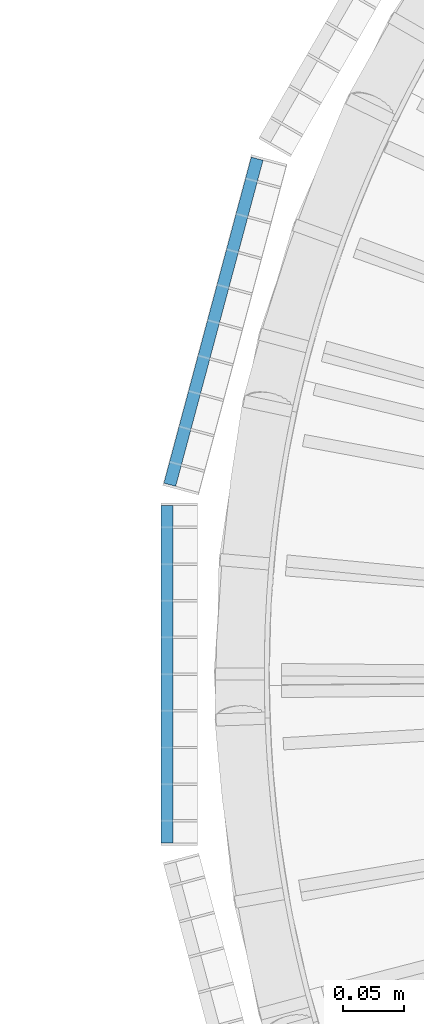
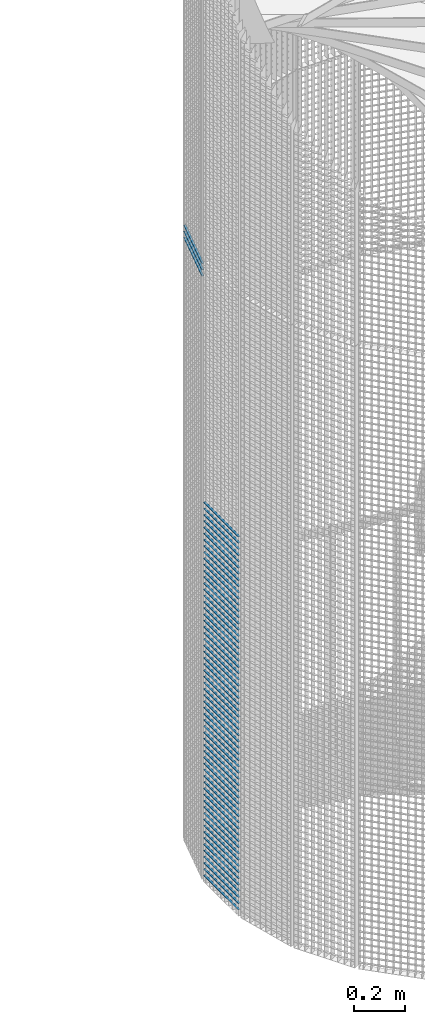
# One storey, part 220 of 1183: 64 beams, 2 elements without a shape of their own.
"""IFC2X3 building model written with IfcOpenShell, lengths in millimetres."""

from ifc_helpers import new_model, si_unit, frame, origin_with_axes, origin_2d_with_axis, place, context, subcontext, project, spatial, rectangle, extrude, material, type_object, element, aggregate, save


model = new_model("IFC2X3")

# Units and contexts
model_context = context("Model", 3, precision=1e-05, world=origin_with_axes())
body_context = subcontext(model_context, "Body", "Model", "MODEL_VIEW")
ifc_project = project(units=[si_unit("LENGTHUNIT", "METRE", prefix="MILLI"), si_unit("AREAUNIT", "SQUARE_METRE"), si_unit("VOLUMEUNIT", "CUBIC_METRE"), si_unit("MASSUNIT", "GRAM", prefix="KILO"), si_unit("TIMEUNIT", "SECOND"), si_unit("PLANEANGLEUNIT", "RADIAN"), si_unit("SOLIDANGLEUNIT", "STERADIAN"), si_unit("THERMODYNAMICTEMPERATUREUNIT", "DEGREE_CELSIUS"), si_unit("LUMINOUSINTENSITYUNIT", "LUMEN")], contexts=[model_context])

# Site, building, storey
site_placement = place(None, origin_with_axes())
site = spatial("IfcSite", under=ifc_project, at=site_placement, Name="Undefined", CompositionType="ELEMENT")
building_placement = place(site_placement, origin_with_axes())
building = spatial("IfcBuilding", under=site, at=building_placement, Name="Undefined", CompositionType="ELEMENT")
storey_placement = place(building_placement, origin_with_axes())
storey = spatial("IfcBuildingStorey", under=building, at=storey_placement, Name="Undefined", CompositionType="ELEMENT", Elevation=0.0)

# Assembly, beams
assembly_1_placement = place(storey_placement, origin_with_axes())
assembly_1 = element("IfcElementAssembly", 1, at=assembly_1_placement, inside=storey, Name="BORDURE", AssemblyPlace="NOTDEFINED", PredefinedType="NOTDEFINED")
ifc_material = material(Name="STEEL/S235JR")
beam_type = type_object("IfcBeamType", Name="PL2*10", PredefinedType="NOTDEFINED")
beam_1_placement = place(assembly_1_placement, frame((-1113.47999999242, 137.996003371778, 1830.0), z_axis=(-1.0, 0.0, 0.0), x_axis=(0.0, -1.0, 0.0)))
beam_1 = element("IfcBeam", 2, at=beam_1_placement, type_object=beam_type, material=ifc_material, Name="ENTRETOISE", context=body_context, shape_type="SweptSolid", body=[
    extrude(rectangle(XDim=2.0, YDim=10.0, at=origin_2d_with_axis()), frame((275.999999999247, 9.09494701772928e-13, 1.53210777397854e-14), z_axis=(-1.0, 0.0, 0.0), x_axis=(0.0, -1.0, 0.0)), (0.0, 0.0, 1.0), 276.0),
])
beam_2_placement = place(assembly_1_placement, frame((-1113.47999999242, 137.996003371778, 1800.0), z_axis=(-1.0, 0.0, 0.0), x_axis=(0.0, -1.0, 0.0)))
beam_2 = element("IfcBeam", 3, at=beam_2_placement, type_object=beam_type, material=ifc_material, Name="ENTRETOISE", context=body_context, shape_type="SweptSolid", body=[
    extrude(rectangle(XDim=2.0, YDim=10.0, at=origin_2d_with_axis()), frame((275.999999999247, 9.09494701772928e-13, 1.53210777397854e-14), z_axis=(-1.0, 0.0, 0.0), x_axis=(0.0, -1.0, 0.0)), (0.0, 0.0, 1.0), 276.0),
])
beam_3_placement = place(assembly_1_placement, frame((-1113.47999999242, 137.996003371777, 1770.0), z_axis=(-1.0, 0.0, 0.0), x_axis=(0.0, -1.0, 0.0)))
beam_3 = element("IfcBeam", 4, at=beam_3_placement, type_object=beam_type, material=ifc_material, Name="ENTRETOISE", context=body_context, shape_type="SweptSolid", body=[
    extrude(rectangle(XDim=2.0, YDim=10.0, at=origin_2d_with_axis()), frame((275.999999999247, 9.09494701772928e-13, 1.53210777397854e-14), z_axis=(-1.0, 0.0, 0.0), x_axis=(0.0, -1.0, 0.0)), (0.0, 0.0, 1.0), 276.0),
])
beam_4_placement = place(assembly_1_placement, frame((-1113.47999999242, 137.996003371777, 1740.0), z_axis=(-1.0, 0.0, 0.0), x_axis=(0.0, -1.0, 0.0)))
beam_4 = element("IfcBeam", 5, at=beam_4_placement, type_object=beam_type, material=ifc_material, Name="ENTRETOISE", context=body_context, shape_type="SweptSolid", body=[
    extrude(rectangle(XDim=2.0, YDim=10.0, at=origin_2d_with_axis()), frame((275.999999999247, 9.09494701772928e-13, 1.53210777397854e-14), z_axis=(-1.0, 0.0, 0.0), x_axis=(0.0, -1.0, 0.0)), (0.0, 0.0, 1.0), 276.0),
])
beam_5_placement = place(assembly_1_placement, frame((-1113.47999999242, 137.996003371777, 1710.0), z_axis=(-1.0, 0.0, 0.0), x_axis=(0.0, -1.0, 0.0)))
beam_5 = element("IfcBeam", 6, at=beam_5_placement, type_object=beam_type, material=ifc_material, Name="ENTRETOISE", context=body_context, shape_type="SweptSolid", body=[
    extrude(rectangle(XDim=2.0, YDim=10.0, at=origin_2d_with_axis()), frame((275.999999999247, 9.09494701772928e-13, 1.53210777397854e-14), z_axis=(-1.0, 0.0, 0.0), x_axis=(0.0, -1.0, 0.0)), (0.0, 0.0, 1.0), 276.0),
])
beam_6_placement = place(assembly_1_placement, frame((-1113.47999999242, 137.996003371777, 1680.0), z_axis=(-1.0, 0.0, 0.0), x_axis=(0.0, -1.0, 0.0)))
beam_6 = element("IfcBeam", 7, at=beam_6_placement, type_object=beam_type, material=ifc_material, Name="ENTRETOISE", context=body_context, shape_type="SweptSolid", body=[
    extrude(rectangle(XDim=2.0, YDim=10.0, at=origin_2d_with_axis()), frame((275.999999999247, 9.09494701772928e-13, 1.53210777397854e-14), z_axis=(-1.0, 0.0, 0.0), x_axis=(0.0, -1.0, 0.0)), (0.0, 0.0, 1.0), 276.0),
])
beam_7_placement = place(assembly_1_placement, frame((-1113.47999999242, 137.996003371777, 1650.0), z_axis=(-1.0, 0.0, 0.0), x_axis=(0.0, -1.0, 0.0)))
beam_7 = element("IfcBeam", 8, at=beam_7_placement, type_object=beam_type, material=ifc_material, Name="ENTRETOISE", context=body_context, shape_type="SweptSolid", body=[
    extrude(rectangle(XDim=2.0, YDim=10.0, at=origin_2d_with_axis()), frame((275.999999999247, 9.09494701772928e-13, 1.53210777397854e-14), z_axis=(-1.0, 0.0, 0.0), x_axis=(0.0, -1.0, 0.0)), (0.0, 0.0, 1.0), 276.0),
])
beam_8_placement = place(assembly_1_placement, frame((-1113.47999999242, 137.996003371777, 1620.0), z_axis=(-1.0, 0.0, 0.0), x_axis=(0.0, -1.0, 0.0)))
beam_8 = element("IfcBeam", 9, at=beam_8_placement, type_object=beam_type, material=ifc_material, Name="ENTRETOISE", context=body_context, shape_type="SweptSolid", body=[
    extrude(rectangle(XDim=2.0, YDim=10.0, at=origin_2d_with_axis()), frame((275.999999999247, 9.09494701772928e-13, 1.53210777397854e-14), z_axis=(-1.0, 0.0, 0.0), x_axis=(0.0, -1.0, 0.0)), (0.0, 0.0, 1.0), 276.0),
])
beam_9_placement = place(assembly_1_placement, frame((-1113.47999999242, 137.996003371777, 1590.0), z_axis=(-1.0, 0.0, 0.0), x_axis=(0.0, -1.0, 0.0)))
beam_9 = element("IfcBeam", 10, at=beam_9_placement, type_object=beam_type, material=ifc_material, Name="ENTRETOISE", context=body_context, shape_type="SweptSolid", body=[
    extrude(rectangle(XDim=2.0, YDim=10.0, at=origin_2d_with_axis()), frame((275.999999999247, 9.09494701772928e-13, 1.53210777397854e-14), z_axis=(-1.0, 0.0, 0.0), x_axis=(0.0, -1.0, 0.0)), (0.0, 0.0, 1.0), 276.0),
])
beam_10_placement = place(assembly_1_placement, frame((-1113.47999999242, 137.996003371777, 1560.0), z_axis=(-1.0, 0.0, 0.0), x_axis=(0.0, -1.0, 0.0)))
beam_10 = element("IfcBeam", 11, at=beam_10_placement, type_object=beam_type, material=ifc_material, Name="ENTRETOISE", context=body_context, shape_type="SweptSolid", body=[
    extrude(rectangle(XDim=2.0, YDim=10.0, at=origin_2d_with_axis()), frame((275.999999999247, 9.09494701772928e-13, 1.53210777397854e-14), z_axis=(-1.0, 0.0, 0.0), x_axis=(0.0, -1.0, 0.0)), (0.0, 0.0, 1.0), 276.0),
])
beam_11_placement = place(assembly_1_placement, frame((-1113.47999999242, 137.996003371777, 1530.0), z_axis=(-1.0, 0.0, 0.0), x_axis=(0.0, -1.0, 0.0)))
beam_11 = element("IfcBeam", 12, at=beam_11_placement, type_object=beam_type, material=ifc_material, Name="ENTRETOISE", context=body_context, shape_type="SweptSolid", body=[
    extrude(rectangle(XDim=2.0, YDim=10.0, at=origin_2d_with_axis()), frame((275.999999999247, 9.09494701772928e-13, 1.53210777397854e-14), z_axis=(-1.0, 0.0, 0.0), x_axis=(0.0, -1.0, 0.0)), (0.0, 0.0, 1.0), 276.0),
])
beam_12_placement = place(assembly_1_placement, frame((-1113.47999999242, 137.996003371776, 1500.0), z_axis=(-1.0, 0.0, 0.0), x_axis=(0.0, -1.0, 0.0)))
beam_12 = element("IfcBeam", 13, at=beam_12_placement, type_object=beam_type, material=ifc_material, Name="ENTRETOISE", context=body_context, shape_type="SweptSolid", body=[
    extrude(rectangle(XDim=2.0, YDim=10.0, at=origin_2d_with_axis()), frame((275.999999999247, 9.09494701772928e-13, 1.53210777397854e-14), z_axis=(-1.0, 0.0, 0.0), x_axis=(0.0, -1.0, 0.0)), (0.0, 0.0, 1.0), 276.0),
])
beam_13_placement = place(assembly_1_placement, frame((-1113.47999999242, 137.996003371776, 1470.0), z_axis=(-1.0, 0.0, 0.0), x_axis=(0.0, -1.0, 0.0)))
beam_13 = element("IfcBeam", 14, at=beam_13_placement, type_object=beam_type, material=ifc_material, Name="ENTRETOISE", context=body_context, shape_type="SweptSolid", body=[
    extrude(rectangle(XDim=2.0, YDim=10.0, at=origin_2d_with_axis()), frame((275.999999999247, 9.09494701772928e-13, 1.53210777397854e-14), z_axis=(-1.0, 0.0, 0.0), x_axis=(0.0, -1.0, 0.0)), (0.0, 0.0, 1.0), 276.0),
])
beam_14_placement = place(assembly_1_placement, frame((-1113.47999999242, 137.996003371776, 1440.0), z_axis=(-1.0, 0.0, 0.0), x_axis=(0.0, -1.0, 0.0)))
beam_14 = element("IfcBeam", 15, at=beam_14_placement, type_object=beam_type, material=ifc_material, Name="ENTRETOISE", context=body_context, shape_type="SweptSolid", body=[
    extrude(rectangle(XDim=2.0, YDim=10.0, at=origin_2d_with_axis()), frame((275.999999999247, 9.09494701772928e-13, 1.53210777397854e-14), z_axis=(-1.0, 0.0, 0.0), x_axis=(0.0, -1.0, 0.0)), (0.0, 0.0, 1.0), 276.0),
])
beam_15_placement = place(assembly_1_placement, frame((-1113.47999999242, 137.996003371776, 1410.0), z_axis=(-1.0, 0.0, 0.0), x_axis=(0.0, -1.0, 0.0)))
beam_15 = element("IfcBeam", 16, at=beam_15_placement, type_object=beam_type, material=ifc_material, Name="ENTRETOISE", context=body_context, shape_type="SweptSolid", body=[
    extrude(rectangle(XDim=2.0, YDim=10.0, at=origin_2d_with_axis()), frame((275.999999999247, 9.09494701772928e-13, 1.53210777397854e-14), z_axis=(-1.0, 0.0, 0.0), x_axis=(0.0, -1.0, 0.0)), (0.0, 0.0, 1.0), 276.0),
])
beam_16_placement = place(assembly_1_placement, frame((-1113.47999999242, 137.996003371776, 1380.0), z_axis=(-1.0, 0.0, 0.0), x_axis=(0.0, -1.0, 0.0)))
beam_16 = element("IfcBeam", 17, at=beam_16_placement, type_object=beam_type, material=ifc_material, Name="ENTRETOISE", context=body_context, shape_type="SweptSolid", body=[
    extrude(rectangle(XDim=2.0, YDim=10.0, at=origin_2d_with_axis()), frame((275.999999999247, 9.09494701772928e-13, 1.53210777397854e-14), z_axis=(-1.0, 0.0, 0.0), x_axis=(0.0, -1.0, 0.0)), (0.0, 0.0, 1.0), 276.0),
])
beam_17_placement = place(assembly_1_placement, frame((-1113.47999999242, 137.996003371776, 1350.0), z_axis=(-1.0, 0.0, 0.0), x_axis=(0.0, -1.0, 0.0)))
beam_17 = element("IfcBeam", 18, at=beam_17_placement, type_object=beam_type, material=ifc_material, Name="ENTRETOISE", context=body_context, shape_type="SweptSolid", body=[
    extrude(rectangle(XDim=2.0, YDim=10.0, at=origin_2d_with_axis()), frame((275.999999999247, 9.09494701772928e-13, 1.53210777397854e-14), z_axis=(-1.0, 0.0, 0.0), x_axis=(0.0, -1.0, 0.0)), (0.0, 0.0, 1.0), 276.0),
])
beam_18_placement = place(assembly_1_placement, frame((-1113.47999999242, 137.996003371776, 1320.0), z_axis=(-1.0, 0.0, 0.0), x_axis=(0.0, -1.0, 0.0)))
beam_18 = element("IfcBeam", 19, at=beam_18_placement, type_object=beam_type, material=ifc_material, Name="ENTRETOISE", context=body_context, shape_type="SweptSolid", body=[
    extrude(rectangle(XDim=2.0, YDim=10.0, at=origin_2d_with_axis()), frame((275.999999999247, 9.09494701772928e-13, 1.53210777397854e-14), z_axis=(-1.0, 0.0, 0.0), x_axis=(0.0, -1.0, 0.0)), (0.0, 0.0, 1.0), 276.0),
])
beam_19_placement = place(assembly_1_placement, frame((-1113.47999999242, 137.996003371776, 1290.0), z_axis=(-1.0, 0.0, 0.0), x_axis=(0.0, -1.0, 0.0)))
beam_19 = element("IfcBeam", 20, at=beam_19_placement, type_object=beam_type, material=ifc_material, Name="ENTRETOISE", context=body_context, shape_type="SweptSolid", body=[
    extrude(rectangle(XDim=2.0, YDim=10.0, at=origin_2d_with_axis()), frame((275.999999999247, 9.09494701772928e-13, 1.53210777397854e-14), z_axis=(-1.0, 0.0, 0.0), x_axis=(0.0, -1.0, 0.0)), (0.0, 0.0, 1.0), 276.0),
])
beam_20_placement = place(assembly_1_placement, frame((-1113.47999999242, 137.996003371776, 1260.0), z_axis=(-1.0, 0.0, 0.0), x_axis=(0.0, -1.0, 0.0)))
beam_20 = element("IfcBeam", 21, at=beam_20_placement, type_object=beam_type, material=ifc_material, Name="ENTRETOISE", context=body_context, shape_type="SweptSolid", body=[
    extrude(rectangle(XDim=2.0, YDim=10.0, at=origin_2d_with_axis()), frame((275.999999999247, 9.09494701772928e-13, 1.53210777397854e-14), z_axis=(-1.0, 0.0, 0.0), x_axis=(0.0, -1.0, 0.0)), (0.0, 0.0, 1.0), 276.0),
])
beam_21_placement = place(assembly_1_placement, frame((-1113.47999999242, 137.996003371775, 1230.0), z_axis=(-1.0, 0.0, 0.0), x_axis=(0.0, -1.0, 0.0)))
beam_21 = element("IfcBeam", 22, at=beam_21_placement, type_object=beam_type, material=ifc_material, Name="ENTRETOISE", context=body_context, shape_type="SweptSolid", body=[
    extrude(rectangle(XDim=2.0, YDim=10.0, at=origin_2d_with_axis()), frame((275.999999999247, 9.09494701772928e-13, 1.53210777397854e-14), z_axis=(-1.0, 0.0, 0.0), x_axis=(0.0, -1.0, 0.0)), (0.0, 0.0, 1.0), 276.0),
])
beam_22_placement = place(assembly_1_placement, frame((-1113.47999999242, 137.996003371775, 1200.0), z_axis=(-1.0, 0.0, 0.0), x_axis=(0.0, -1.0, 0.0)))
beam_22 = element("IfcBeam", 23, at=beam_22_placement, type_object=beam_type, material=ifc_material, Name="ENTRETOISE", context=body_context, shape_type="SweptSolid", body=[
    extrude(rectangle(XDim=2.0, YDim=10.0, at=origin_2d_with_axis()), frame((275.999999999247, 9.09494701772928e-13, 1.53210777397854e-14), z_axis=(-1.0, 0.0, 0.0), x_axis=(0.0, -1.0, 0.0)), (0.0, 0.0, 1.0), 276.0),
])
beam_23_placement = place(assembly_1_placement, frame((-1113.47999999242, 137.996003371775, 1170.0), z_axis=(-1.0, 0.0, 0.0), x_axis=(0.0, -1.0, 0.0)))
beam_23 = element("IfcBeam", 24, at=beam_23_placement, type_object=beam_type, material=ifc_material, Name="ENTRETOISE", context=body_context, shape_type="SweptSolid", body=[
    extrude(rectangle(XDim=2.0, YDim=10.0, at=origin_2d_with_axis()), frame((275.999999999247, 9.09494701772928e-13, 1.53210777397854e-14), z_axis=(-1.0, 0.0, 0.0), x_axis=(0.0, -1.0, 0.0)), (0.0, 0.0, 1.0), 276.0),
])
beam_24_placement = place(assembly_1_placement, frame((-1113.47999999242, 137.996003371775, 1140.0), z_axis=(-1.0, 0.0, 0.0), x_axis=(0.0, -1.0, 0.0)))
beam_24 = element("IfcBeam", 25, at=beam_24_placement, type_object=beam_type, material=ifc_material, Name="ENTRETOISE", context=body_context, shape_type="SweptSolid", body=[
    extrude(rectangle(XDim=2.0, YDim=10.0, at=origin_2d_with_axis()), frame((275.999999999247, 9.09494701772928e-13, 1.53210777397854e-14), z_axis=(-1.0, 0.0, 0.0), x_axis=(0.0, -1.0, 0.0)), (0.0, 0.0, 1.0), 276.0),
])
beam_25_placement = place(assembly_1_placement, frame((-1113.47999999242, 137.996003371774, 719.999999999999), z_axis=(-1.0, 0.0, 0.0), x_axis=(0.0, -1.0, 0.0)))
beam_25 = element("IfcBeam", 26, at=beam_25_placement, type_object=beam_type, material=ifc_material, Name="ENTRETOISE", context=body_context, shape_type="SweptSolid", body=[
    extrude(rectangle(XDim=2.0, YDim=10.0, at=origin_2d_with_axis()), frame((275.999999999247, 9.09494701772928e-13, 1.53210777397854e-14), z_axis=(-1.0, 0.0, 0.0), x_axis=(0.0, -1.0, 0.0)), (0.0, 0.0, 1.0), 276.0),
])
beam_26_placement = place(assembly_1_placement, frame((-1113.47999999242, 137.996003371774, 689.999999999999), z_axis=(-1.0, 0.0, 0.0), x_axis=(0.0, -1.0, 0.0)))
beam_26 = element("IfcBeam", 27, at=beam_26_placement, type_object=beam_type, material=ifc_material, Name="ENTRETOISE", context=body_context, shape_type="SweptSolid", body=[
    extrude(rectangle(XDim=2.0, YDim=10.0, at=origin_2d_with_axis()), frame((275.999999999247, 9.09494701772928e-13, 1.53210777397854e-14), z_axis=(-1.0, 0.0, 0.0), x_axis=(0.0, -1.0, 0.0)), (0.0, 0.0, 1.0), 276.0),
])
beam_27_placement = place(assembly_1_placement, frame((-1113.47999999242, 137.996003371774, 749.999999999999), z_axis=(-1.0, 0.0, 0.0), x_axis=(0.0, -1.0, 0.0)))
beam_27 = element("IfcBeam", 28, at=beam_27_placement, type_object=beam_type, material=ifc_material, Name="ENTRETOISE", context=body_context, shape_type="SweptSolid", body=[
    extrude(rectangle(XDim=2.0, YDim=10.0, at=origin_2d_with_axis()), frame((275.999999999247, 9.09494701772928e-13, 1.53210777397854e-14), z_axis=(-1.0, 0.0, 0.0), x_axis=(0.0, -1.0, 0.0)), (0.0, 0.0, 1.0), 276.0),
])
beam_28_placement = place(assembly_1_placement, frame((-1113.47999999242, 137.996003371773, 659.999999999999), z_axis=(-1.0, 0.0, 0.0), x_axis=(0.0, -1.0, 0.0)))
beam_28 = element("IfcBeam", 29, at=beam_28_placement, type_object=beam_type, material=ifc_material, Name="ENTRETOISE", context=body_context, shape_type="SweptSolid", body=[
    extrude(rectangle(XDim=2.0, YDim=10.0, at=origin_2d_with_axis()), frame((275.999999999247, 9.09494701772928e-13, 1.53210777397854e-14), z_axis=(-1.0, 0.0, 0.0), x_axis=(0.0, -1.0, 0.0)), (0.0, 0.0, 1.0), 276.0),
])
beam_29_placement = place(assembly_1_placement, frame((-1113.47999999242, 137.996003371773, 629.999999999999), z_axis=(-1.0, 0.0, 0.0), x_axis=(0.0, -1.0, 0.0)))
beam_29 = element("IfcBeam", 30, at=beam_29_placement, type_object=beam_type, material=ifc_material, Name="ENTRETOISE", context=body_context, shape_type="SweptSolid", body=[
    extrude(rectangle(XDim=2.0, YDim=10.0, at=origin_2d_with_axis()), frame((275.999999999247, 9.09494701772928e-13, 1.53210777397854e-14), z_axis=(-1.0, 0.0, 0.0), x_axis=(0.0, -1.0, 0.0)), (0.0, 0.0, 1.0), 276.0),
])
beam_30_placement = place(assembly_1_placement, frame((-1113.47999999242, 137.996003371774, 779.999999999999), z_axis=(-1.0, 0.0, 0.0), x_axis=(0.0, -1.0, 0.0)))
beam_30 = element("IfcBeam", 31, at=beam_30_placement, type_object=beam_type, material=ifc_material, Name="ENTRETOISE", context=body_context, shape_type="SweptSolid", body=[
    extrude(rectangle(XDim=2.0, YDim=10.0, at=origin_2d_with_axis()), frame((275.999999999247, 9.09494701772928e-13, 1.53210777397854e-14), z_axis=(-1.0, 0.0, 0.0), x_axis=(0.0, -1.0, 0.0)), (0.0, 0.0, 1.0), 276.0),
])
beam_31_placement = place(assembly_1_placement, frame((-1113.47999999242, 137.996003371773, 599.999999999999), z_axis=(-1.0, 0.0, 0.0), x_axis=(0.0, -1.0, 0.0)))
beam_31 = element("IfcBeam", 32, at=beam_31_placement, type_object=beam_type, material=ifc_material, Name="ENTRETOISE", context=body_context, shape_type="SweptSolid", body=[
    extrude(rectangle(XDim=2.0, YDim=10.0, at=origin_2d_with_axis()), frame((275.999999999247, 9.09494701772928e-13, 1.53210777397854e-14), z_axis=(-1.0, 0.0, 0.0), x_axis=(0.0, -1.0, 0.0)), (0.0, 0.0, 1.0), 276.0),
])
beam_32_placement = place(assembly_1_placement, frame((-1113.47999999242, 137.996003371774, 809.999999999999), z_axis=(-1.0, 0.0, 0.0), x_axis=(0.0, -1.0, 0.0)))
beam_32 = element("IfcBeam", 33, at=beam_32_placement, type_object=beam_type, material=ifc_material, Name="ENTRETOISE", context=body_context, shape_type="SweptSolid", body=[
    extrude(rectangle(XDim=2.0, YDim=10.0, at=origin_2d_with_axis()), frame((275.999999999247, 9.09494701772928e-13, 1.53210777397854e-14), z_axis=(-1.0, 0.0, 0.0), x_axis=(0.0, -1.0, 0.0)), (0.0, 0.0, 1.0), 276.0),
])
beam_33_placement = place(assembly_1_placement, frame((-1113.47999999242, 137.996003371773, 569.999999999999), z_axis=(-1.0, 0.0, 0.0), x_axis=(0.0, -1.0, 0.0)))
beam_33 = element("IfcBeam", 34, at=beam_33_placement, type_object=beam_type, material=ifc_material, Name="ENTRETOISE", context=body_context, shape_type="SweptSolid", body=[
    extrude(rectangle(XDim=2.0, YDim=10.0, at=origin_2d_with_axis()), frame((275.999999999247, 9.09494701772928e-13, 1.53210777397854e-14), z_axis=(-1.0, 0.0, 0.0), x_axis=(0.0, -1.0, 0.0)), (0.0, 0.0, 1.0), 276.0),
])
beam_34_placement = place(assembly_1_placement, frame((-1113.47999999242, 137.996003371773, 539.999999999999), z_axis=(-1.0, 0.0, 0.0), x_axis=(0.0, -1.0, 0.0)))
beam_34 = element("IfcBeam", 35, at=beam_34_placement, type_object=beam_type, material=ifc_material, Name="ENTRETOISE", context=body_context, shape_type="SweptSolid", body=[
    extrude(rectangle(XDim=2.0, YDim=10.0, at=origin_2d_with_axis()), frame((275.999999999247, 9.09494701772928e-13, 1.53210777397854e-14), z_axis=(-1.0, 0.0, 0.0), x_axis=(0.0, -1.0, 0.0)), (0.0, 0.0, 1.0), 276.0),
])
beam_35_placement = place(assembly_1_placement, frame((-1113.47999999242, 137.996003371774, 839.999999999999), z_axis=(-1.0, 0.0, 0.0), x_axis=(0.0, -1.0, 0.0)))
beam_35 = element("IfcBeam", 36, at=beam_35_placement, type_object=beam_type, material=ifc_material, Name="ENTRETOISE", context=body_context, shape_type="SweptSolid", body=[
    extrude(rectangle(XDim=2.0, YDim=10.0, at=origin_2d_with_axis()), frame((275.999999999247, 9.09494701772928e-13, 1.53210777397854e-14), z_axis=(-1.0, 0.0, 0.0), x_axis=(0.0, -1.0, 0.0)), (0.0, 0.0, 1.0), 276.0),
])
beam_36_placement = place(assembly_1_placement, frame((-1113.47999999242, 137.996003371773, 509.999999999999), z_axis=(-1.0, 0.0, 0.0), x_axis=(0.0, -1.0, 0.0)))
beam_36 = element("IfcBeam", 37, at=beam_36_placement, type_object=beam_type, material=ifc_material, Name="ENTRETOISE", context=body_context, shape_type="SweptSolid", body=[
    extrude(rectangle(XDim=2.0, YDim=10.0, at=origin_2d_with_axis()), frame((275.999999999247, 9.09494701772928e-13, 1.53210777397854e-14), z_axis=(-1.0, 0.0, 0.0), x_axis=(0.0, -1.0, 0.0)), (0.0, 0.0, 1.0), 276.0),
])
beam_37_placement = place(assembly_1_placement, frame((-1113.47999999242, 137.996003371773, 479.999999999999), z_axis=(-1.0, 0.0, 0.0), x_axis=(0.0, -1.0, 0.0)))
beam_37 = element("IfcBeam", 38, at=beam_37_placement, type_object=beam_type, material=ifc_material, Name="ENTRETOISE", context=body_context, shape_type="SweptSolid", body=[
    extrude(rectangle(XDim=2.0, YDim=10.0, at=origin_2d_with_axis()), frame((275.999999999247, 9.09494701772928e-13, 1.53210777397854e-14), z_axis=(-1.0, 0.0, 0.0), x_axis=(0.0, -1.0, 0.0)), (0.0, 0.0, 1.0), 276.0),
])
beam_38_placement = place(assembly_1_placement, frame((-1113.47999999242, 137.996003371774, 869.999999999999), z_axis=(-1.0, 0.0, 0.0), x_axis=(0.0, -1.0, 0.0)))
beam_38 = element("IfcBeam", 39, at=beam_38_placement, type_object=beam_type, material=ifc_material, Name="ENTRETOISE", context=body_context, shape_type="SweptSolid", body=[
    extrude(rectangle(XDim=2.0, YDim=10.0, at=origin_2d_with_axis()), frame((275.999999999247, 9.09494701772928e-13, 1.53210777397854e-14), z_axis=(-1.0, 0.0, 0.0), x_axis=(0.0, -1.0, 0.0)), (0.0, 0.0, 1.0), 276.0),
])
beam_39_placement = place(assembly_1_placement, frame((-1113.47999999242, 137.996003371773, 449.999999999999), z_axis=(-1.0, 0.0, 0.0), x_axis=(0.0, -1.0, 0.0)))
beam_39 = element("IfcBeam", 40, at=beam_39_placement, type_object=beam_type, material=ifc_material, Name="ENTRETOISE", context=body_context, shape_type="SweptSolid", body=[
    extrude(rectangle(XDim=2.0, YDim=10.0, at=origin_2d_with_axis()), frame((275.999999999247, 9.09494701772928e-13, 1.53210777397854e-14), z_axis=(-1.0, 0.0, 0.0), x_axis=(0.0, -1.0, 0.0)), (0.0, 0.0, 1.0), 276.0),
])
beam_40_placement = place(assembly_1_placement, frame((-1113.47999999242, 137.996003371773, 419.999999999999), z_axis=(-1.0, 0.0, 0.0), x_axis=(0.0, -1.0, 0.0)))
beam_40 = element("IfcBeam", 41, at=beam_40_placement, type_object=beam_type, material=ifc_material, Name="ENTRETOISE", context=body_context, shape_type="SweptSolid", body=[
    extrude(rectangle(XDim=2.0, YDim=10.0, at=origin_2d_with_axis()), frame((275.999999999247, 9.09494701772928e-13, 1.53210777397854e-14), z_axis=(-1.0, 0.0, 0.0), x_axis=(0.0, -1.0, 0.0)), (0.0, 0.0, 1.0), 276.0),
])
beam_41_placement = place(assembly_1_placement, frame((-1113.47999999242, 137.996003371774, 899.999999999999), z_axis=(-1.0, 0.0, 0.0), x_axis=(0.0, -1.0, 0.0)))
beam_41 = element("IfcBeam", 42, at=beam_41_placement, type_object=beam_type, material=ifc_material, Name="ENTRETOISE", context=body_context, shape_type="SweptSolid", body=[
    extrude(rectangle(XDim=2.0, YDim=10.0, at=origin_2d_with_axis()), frame((275.999999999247, 9.09494701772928e-13, 1.53210777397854e-14), z_axis=(-1.0, 0.0, 0.0), x_axis=(0.0, -1.0, 0.0)), (0.0, 0.0, 1.0), 276.0),
])
beam_42_placement = place(assembly_1_placement, frame((-1113.47999999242, 137.996003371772, 389.999999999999), z_axis=(-1.0, 0.0, 0.0), x_axis=(0.0, -1.0, 0.0)))
beam_42 = element("IfcBeam", 43, at=beam_42_placement, type_object=beam_type, material=ifc_material, Name="ENTRETOISE", context=body_context, shape_type="SweptSolid", body=[
    extrude(rectangle(XDim=2.0, YDim=10.0, at=origin_2d_with_axis()), frame((275.999999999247, 9.09494701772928e-13, 1.53210777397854e-14), z_axis=(-1.0, 0.0, 0.0), x_axis=(0.0, -1.0, 0.0)), (0.0, 0.0, 1.0), 276.0),
])
beam_43_placement = place(assembly_1_placement, frame((-1113.47999999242, 137.996003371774, 929.999999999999), z_axis=(-1.0, 0.0, 0.0), x_axis=(0.0, -1.0, 0.0)))
beam_43 = element("IfcBeam", 44, at=beam_43_placement, type_object=beam_type, material=ifc_material, Name="ENTRETOISE", context=body_context, shape_type="SweptSolid", body=[
    extrude(rectangle(XDim=2.0, YDim=10.0, at=origin_2d_with_axis()), frame((275.999999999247, 9.09494701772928e-13, 1.53210777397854e-14), z_axis=(-1.0, 0.0, 0.0), x_axis=(0.0, -1.0, 0.0)), (0.0, 0.0, 1.0), 276.0),
])
beam_44_placement = place(assembly_1_placement, frame((-1113.47999999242, 137.996003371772, 359.999999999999), z_axis=(-1.0, 0.0, 0.0), x_axis=(0.0, -1.0, 0.0)))
beam_44 = element("IfcBeam", 45, at=beam_44_placement, type_object=beam_type, material=ifc_material, Name="ENTRETOISE", context=body_context, shape_type="SweptSolid", body=[
    extrude(rectangle(XDim=2.0, YDim=10.0, at=origin_2d_with_axis()), frame((275.999999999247, 9.09494701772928e-13, 1.53210777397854e-14), z_axis=(-1.0, 0.0, 0.0), x_axis=(0.0, -1.0, 0.0)), (0.0, 0.0, 1.0), 276.0),
])
beam_45_placement = place(assembly_1_placement, frame((-1113.47999999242, 137.996003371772, 329.999999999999), z_axis=(-1.0, 0.0, 0.0), x_axis=(0.0, -1.0, 0.0)))
beam_45 = element("IfcBeam", 46, at=beam_45_placement, type_object=beam_type, material=ifc_material, Name="ENTRETOISE", context=body_context, shape_type="SweptSolid", body=[
    extrude(rectangle(XDim=2.0, YDim=10.0, at=origin_2d_with_axis()), frame((275.999999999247, 9.09494701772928e-13, 1.53210777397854e-14), z_axis=(-1.0, 0.0, 0.0), x_axis=(0.0, -1.0, 0.0)), (0.0, 0.0, 1.0), 276.0),
])
beam_46_placement = place(assembly_1_placement, frame((-1113.47999999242, 137.996003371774, 959.999999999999), z_axis=(-1.0, 0.0, 0.0), x_axis=(0.0, -1.0, 0.0)))
beam_46 = element("IfcBeam", 47, at=beam_46_placement, type_object=beam_type, material=ifc_material, Name="ENTRETOISE", context=body_context, shape_type="SweptSolid", body=[
    extrude(rectangle(XDim=2.0, YDim=10.0, at=origin_2d_with_axis()), frame((275.999999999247, 9.09494701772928e-13, 1.53210777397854e-14), z_axis=(-1.0, 0.0, 0.0), x_axis=(0.0, -1.0, 0.0)), (0.0, 0.0, 1.0), 276.0),
])
beam_47_placement = place(assembly_1_placement, frame((-1113.47999999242, 137.996003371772, 299.999999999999), z_axis=(-1.0, 0.0, 0.0), x_axis=(0.0, -1.0, 0.0)))
beam_47 = element("IfcBeam", 48, at=beam_47_placement, type_object=beam_type, material=ifc_material, Name="ENTRETOISE", context=body_context, shape_type="SweptSolid", body=[
    extrude(rectangle(XDim=2.0, YDim=10.0, at=origin_2d_with_axis()), frame((275.999999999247, 9.09494701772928e-13, 1.53210777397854e-14), z_axis=(-1.0, 0.0, 0.0), x_axis=(0.0, -1.0, 0.0)), (0.0, 0.0, 1.0), 276.0),
])
beam_48_placement = place(assembly_1_placement, frame((-1113.47999999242, 137.996003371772, 269.999999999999), z_axis=(-1.0, 0.0, 0.0), x_axis=(0.0, -1.0, 0.0)))
beam_48 = element("IfcBeam", 49, at=beam_48_placement, type_object=beam_type, material=ifc_material, Name="ENTRETOISE", context=body_context, shape_type="SweptSolid", body=[
    extrude(rectangle(XDim=2.0, YDim=10.0, at=origin_2d_with_axis()), frame((275.999999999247, 9.09494701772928e-13, 1.53210777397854e-14), z_axis=(-1.0, 0.0, 0.0), x_axis=(0.0, -1.0, 0.0)), (0.0, 0.0, 1.0), 276.0),
])
beam_49_placement = place(assembly_1_placement, frame((-1113.47999999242, 137.996003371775, 989.999999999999), z_axis=(-1.0, 0.0, 0.0), x_axis=(0.0, -1.0, 0.0)))
beam_49 = element("IfcBeam", 50, at=beam_49_placement, type_object=beam_type, material=ifc_material, Name="ENTRETOISE", context=body_context, shape_type="SweptSolid", body=[
    extrude(rectangle(XDim=2.0, YDim=10.0, at=origin_2d_with_axis()), frame((275.999999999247, 9.09494701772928e-13, 1.53210777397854e-14), z_axis=(-1.0, 0.0, 0.0), x_axis=(0.0, -1.0, 0.0)), (0.0, 0.0, 1.0), 276.0),
])
beam_50_placement = place(assembly_1_placement, frame((-1113.47999999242, 137.996003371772, 239.999999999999), z_axis=(-1.0, 0.0, 0.0), x_axis=(0.0, -1.0, 0.0)))
beam_50 = element("IfcBeam", 51, at=beam_50_placement, type_object=beam_type, material=ifc_material, Name="ENTRETOISE", context=body_context, shape_type="SweptSolid", body=[
    extrude(rectangle(XDim=2.0, YDim=10.0, at=origin_2d_with_axis()), frame((275.999999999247, 9.09494701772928e-13, 1.53210777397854e-14), z_axis=(-1.0, 0.0, 0.0), x_axis=(0.0, -1.0, 0.0)), (0.0, 0.0, 1.0), 276.0),
])
beam_51_placement = place(assembly_1_placement, frame((-1113.47999999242, 137.996003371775, 1020.0), z_axis=(-1.0, 0.0, 0.0), x_axis=(0.0, -1.0, 0.0)))
beam_51 = element("IfcBeam", 52, at=beam_51_placement, type_object=beam_type, material=ifc_material, Name="ENTRETOISE", context=body_context, shape_type="SweptSolid", body=[
    extrude(rectangle(XDim=2.0, YDim=10.0, at=origin_2d_with_axis()), frame((275.999999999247, 9.09494701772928e-13, 1.53210777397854e-14), z_axis=(-1.0, 0.0, 0.0), x_axis=(0.0, -1.0, 0.0)), (0.0, 0.0, 1.0), 276.0),
])
beam_52_placement = place(assembly_1_placement, frame((-1113.47999999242, 137.996003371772, 209.999999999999), z_axis=(-1.0, 0.0, 0.0), x_axis=(0.0, -1.0, 0.0)))
beam_52 = element("IfcBeam", 53, at=beam_52_placement, type_object=beam_type, material=ifc_material, Name="ENTRETOISE", context=body_context, shape_type="SweptSolid", body=[
    extrude(rectangle(XDim=2.0, YDim=10.0, at=origin_2d_with_axis()), frame((275.999999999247, 9.09494701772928e-13, 1.53210777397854e-14), z_axis=(-1.0, 0.0, 0.0), x_axis=(0.0, -1.0, 0.0)), (0.0, 0.0, 1.0), 276.0),
])
beam_53_placement = place(assembly_1_placement, frame((-1113.47999999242, 137.996003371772, 179.999999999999), z_axis=(-1.0, 0.0, 0.0), x_axis=(0.0, -1.0, 0.0)))
beam_53 = element("IfcBeam", 54, at=beam_53_placement, type_object=beam_type, material=ifc_material, Name="ENTRETOISE", context=body_context, shape_type="SweptSolid", body=[
    extrude(rectangle(XDim=2.0, YDim=10.0, at=origin_2d_with_axis()), frame((275.999999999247, 9.09494701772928e-13, 1.53210777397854e-14), z_axis=(-1.0, 0.0, 0.0), x_axis=(0.0, -1.0, 0.0)), (0.0, 0.0, 1.0), 276.0),
])
beam_54_placement = place(assembly_1_placement, frame((-1113.47999999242, 137.996003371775, 1050.0), z_axis=(-1.0, 0.0, 0.0), x_axis=(0.0, -1.0, 0.0)))
beam_54 = element("IfcBeam", 55, at=beam_54_placement, type_object=beam_type, material=ifc_material, Name="ENTRETOISE", context=body_context, shape_type="SweptSolid", body=[
    extrude(rectangle(XDim=2.0, YDim=10.0, at=origin_2d_with_axis()), frame((275.999999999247, 9.09494701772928e-13, 1.53210777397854e-14), z_axis=(-1.0, 0.0, 0.0), x_axis=(0.0, -1.0, 0.0)), (0.0, 0.0, 1.0), 276.0),
])
beam_55_placement = place(assembly_1_placement, frame((-1113.47999999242, 137.996003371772, 149.999999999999), z_axis=(-1.0, 0.0, 0.0), x_axis=(0.0, -1.0, 0.0)))
beam_55 = element("IfcBeam", 56, at=beam_55_placement, type_object=beam_type, material=ifc_material, Name="ENTRETOISE", context=body_context, shape_type="SweptSolid", body=[
    extrude(rectangle(XDim=2.0, YDim=10.0, at=origin_2d_with_axis()), frame((275.999999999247, 9.09494701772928e-13, 1.53210777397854e-14), z_axis=(-1.0, 0.0, 0.0), x_axis=(0.0, -1.0, 0.0)), (0.0, 0.0, 1.0), 276.0),
])
beam_56_placement = place(assembly_1_placement, frame((-1113.47999999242, 137.996003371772, 119.999999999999), z_axis=(-1.0, 0.0, 0.0), x_axis=(0.0, -1.0, 0.0)))
beam_56 = element("IfcBeam", 57, at=beam_56_placement, type_object=beam_type, material=ifc_material, Name="ENTRETOISE", context=body_context, shape_type="SweptSolid", body=[
    extrude(rectangle(XDim=2.0, YDim=10.0, at=origin_2d_with_axis()), frame((275.999999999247, 9.09494701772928e-13, 1.53210777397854e-14), z_axis=(-1.0, 0.0, 0.0), x_axis=(0.0, -1.0, 0.0)), (0.0, 0.0, 1.0), 276.0),
])
beam_57_placement = place(assembly_1_placement, frame((-1113.47999999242, 137.996003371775, 1080.0), z_axis=(-1.0, 0.0, 0.0), x_axis=(0.0, -1.0, 0.0)))
beam_57 = element("IfcBeam", 58, at=beam_57_placement, type_object=beam_type, material=ifc_material, Name="ENTRETOISE", context=body_context, shape_type="SweptSolid", body=[
    extrude(rectangle(XDim=2.0, YDim=10.0, at=origin_2d_with_axis()), frame((275.999999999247, 9.09494701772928e-13, 1.53210777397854e-14), z_axis=(-1.0, 0.0, 0.0), x_axis=(0.0, -1.0, 0.0)), (0.0, 0.0, 1.0), 276.0),
])
beam_58_placement = place(assembly_1_placement, frame((-1113.47999999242, 137.996003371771, 89.9999999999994), z_axis=(-1.0, 0.0, 0.0), x_axis=(0.0, -1.0, 0.0)))
beam_58 = element("IfcBeam", 59, at=beam_58_placement, type_object=beam_type, material=ifc_material, Name="ENTRETOISE", context=body_context, shape_type="SweptSolid", body=[
    extrude(rectangle(XDim=2.0, YDim=10.0, at=origin_2d_with_axis()), frame((275.999999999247, 9.09494701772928e-13, 1.53210777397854e-14), z_axis=(-1.0, 0.0, 0.0), x_axis=(0.0, -1.0, 0.0)), (0.0, 0.0, 1.0), 276.0),
])
beam_59_placement = place(assembly_1_placement, frame((-1113.47999999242, 137.996003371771, 59.9999999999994), z_axis=(-1.0, 0.0, 0.0), x_axis=(0.0, -1.0, 0.0)))
beam_59 = element("IfcBeam", 60, at=beam_59_placement, type_object=beam_type, material=ifc_material, Name="ENTRETOISE", context=body_context, shape_type="SweptSolid", body=[
    extrude(rectangle(XDim=2.0, YDim=10.0, at=origin_2d_with_axis()), frame((275.999999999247, 9.09494701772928e-13, 1.53210777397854e-14), z_axis=(-1.0, 0.0, 0.0), x_axis=(0.0, -1.0, 0.0)), (0.0, 0.0, 1.0), 276.0),
])
beam_60_placement = place(assembly_1_placement, frame((-1113.47999999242, 137.996003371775, 1110.0), z_axis=(-1.0, 0.0, 0.0), x_axis=(0.0, -1.0, 0.0)))
beam_60 = element("IfcBeam", 61, at=beam_60_placement, type_object=beam_type, material=ifc_material, Name="ENTRETOISE", context=body_context, shape_type="SweptSolid", body=[
    extrude(rectangle(XDim=2.0, YDim=10.0, at=origin_2d_with_axis()), frame((275.999999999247, 9.09494701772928e-13, 1.53210777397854e-14), z_axis=(-1.0, 0.0, 0.0), x_axis=(0.0, -1.0, 0.0)), (0.0, 0.0, 1.0), 276.0),
])
beam_61_placement = place(assembly_1_placement, frame((-1113.47999999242, 137.99600337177, 29.9999999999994), z_axis=(-1.0, 0.0, 0.0), x_axis=(0.0, -1.0, 0.0)))
beam_61 = element("IfcBeam", 62, at=beam_61_placement, type_object=beam_type, material=ifc_material, Name="ENTRETOISE", context=body_context, shape_type="SweptSolid", body=[
    extrude(rectangle(XDim=2.0, YDim=10.0, at=origin_2d_with_axis()), frame((275.999999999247, 9.09494701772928e-13, 1.53210777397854e-14), z_axis=(-1.0, 0.0, 0.0), x_axis=(0.0, -1.0, 0.0)), (0.0, 0.0, 1.0), 276.0),
])
aggregate(assembly_1, [beam_1, beam_2, beam_3, beam_4, beam_5, beam_6, beam_7, beam_8, beam_9, beam_10, beam_11, beam_12, beam_13, beam_14, beam_15, beam_16, beam_17, beam_18, beam_19, beam_20, beam_21, beam_22, beam_23, beam_24, beam_25, beam_26, beam_27, beam_28, beam_29, beam_30, beam_31, beam_32, beam_33, beam_34, beam_35, beam_36, beam_37, beam_38, beam_39, beam_40, beam_41, beam_42, beam_43, beam_44, beam_45, beam_46, beam_47, beam_48, beam_49, beam_50, beam_51, beam_52, beam_53, beam_54, beam_55, beam_56, beam_57, beam_58, beam_59, beam_60, beam_61])

assembly_2_placement = place(storey_placement, origin_with_axes())
assembly_2 = element("IfcElementAssembly", 63, at=assembly_2_placement, inside=storey, Name="BORDURE", AssemblyPlace="NOTDEFINED", PredefinedType="NOTDEFINED")
beam_62_placement = place(assembly_2_placement, frame((-1039.82309522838, 421.483733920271, 2970.0), z_axis=(-0.965925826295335, 0.258819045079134, 0.0), x_axis=(-0.258819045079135, -0.965925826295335, 0.0)))
beam_62 = element("IfcBeam", 64, at=beam_62_placement, type_object=beam_type, material=ifc_material, Name="ENTRETOISE", context=body_context, shape_type="SweptSolid", body=[
    extrude(rectangle(XDim=2.0, YDim=10.0, at=origin_2d_with_axis()), frame((275.999999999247, 9.09494701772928e-13, 1.53210777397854e-14), z_axis=(-1.0, 0.0, 0.0), x_axis=(0.0, -1.0, 0.0)), (0.0, 0.0, 1.0), 276.0),
])
beam_63_placement = place(assembly_2_placement, frame((-1039.82309522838, 421.483733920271, 2940.0), z_axis=(-0.965925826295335, 0.258819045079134, 0.0), x_axis=(-0.258819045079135, -0.965925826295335, 0.0)))
beam_63 = element("IfcBeam", 65, at=beam_63_placement, type_object=beam_type, material=ifc_material, Name="ENTRETOISE", context=body_context, shape_type="SweptSolid", body=[
    extrude(rectangle(XDim=2.0, YDim=10.0, at=origin_2d_with_axis()), frame((275.999999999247, 9.09494701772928e-13, 1.53210777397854e-14), z_axis=(-1.0, 0.0, 0.0), x_axis=(0.0, -1.0, 0.0)), (0.0, 0.0, 1.0), 276.0),
])
beam_64_placement = place(assembly_2_placement, frame((-1039.82309522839, 421.483733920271, 2910.0), z_axis=(-0.965925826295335, 0.258819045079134, 0.0), x_axis=(-0.258819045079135, -0.965925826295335, 0.0)))
beam_64 = element("IfcBeam", 66, at=beam_64_placement, type_object=beam_type, material=ifc_material, Name="ENTRETOISE", context=body_context, shape_type="SweptSolid", body=[
    extrude(rectangle(XDim=2.0, YDim=10.0, at=origin_2d_with_axis()), frame((275.999999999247, 9.09494701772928e-13, 1.53210777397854e-14), z_axis=(-1.0, 0.0, 0.0), x_axis=(0.0, -1.0, 0.0)), (0.0, 0.0, 1.0), 276.0),
])
aggregate(assembly_2, [beam_62, beam_63, beam_64])

save(model, "model.ifc")
